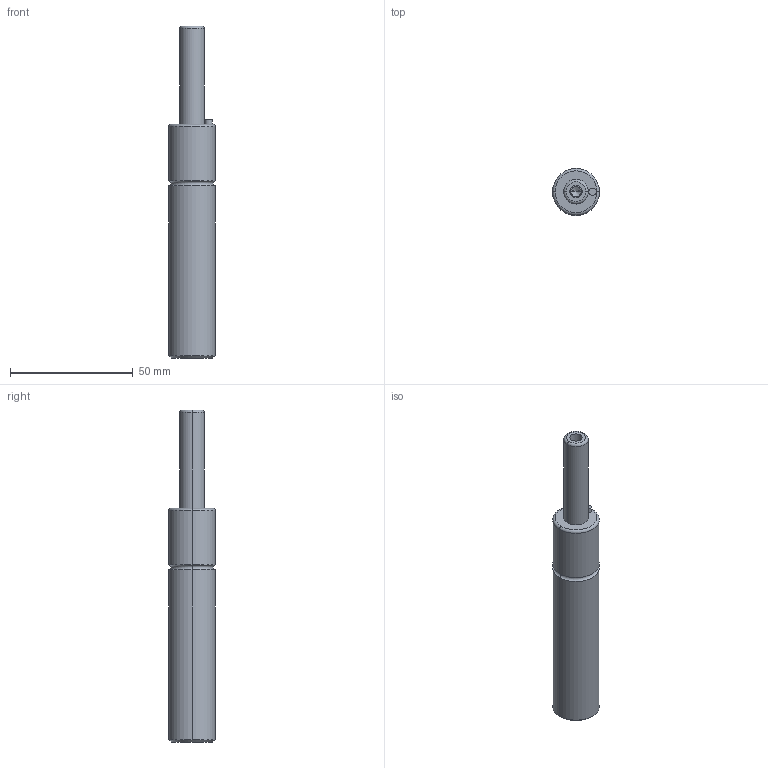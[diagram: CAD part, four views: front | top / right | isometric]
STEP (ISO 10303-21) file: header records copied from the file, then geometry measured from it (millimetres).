
FILE_DESCRIPTION(/* description */ (''),/* implementation_level */ '2;1');
FILE_NAME(/* name */ '3d_gsm19-38_03951_r00.stp',/* time_stamp */ '2011-01-10T14:15:17+09:00',/* author */ ('MISUMI'),/* organization */ (''),/* preprocessor_version */ 'ST-DEVELOPER v11',/* originating_system */ 'UGS - NX 5.0',/* authorisation */ '');
FILE_SCHEMA (('CONFIG_CONTROL_DESIGN'));
Length unit declared in the file: millimetre
Products named in the file (1): 3d_gsm19-38_03951_r00
Bounding box: 19 x 19 x 135 mm (x, y, z)
Volume: 29513.2 mm3; surface area: 7811.1 mm2
Topology: 1 solids, 1 shells, 34 faces, 70 edges, 40 vertices
Faces by surface type: cylinder 16, cone 6, plane 6, torus 6
Entity records: 964 total; most frequent: DIRECTION 180, CARTESIAN_POINT 141, ORIENTED_EDGE 132, AXIS2_PLACEMENT_3D 79, EDGE_CURVE 66, CIRCLE 44, EDGE_LOOP 40, VERTEX_POINT 40
